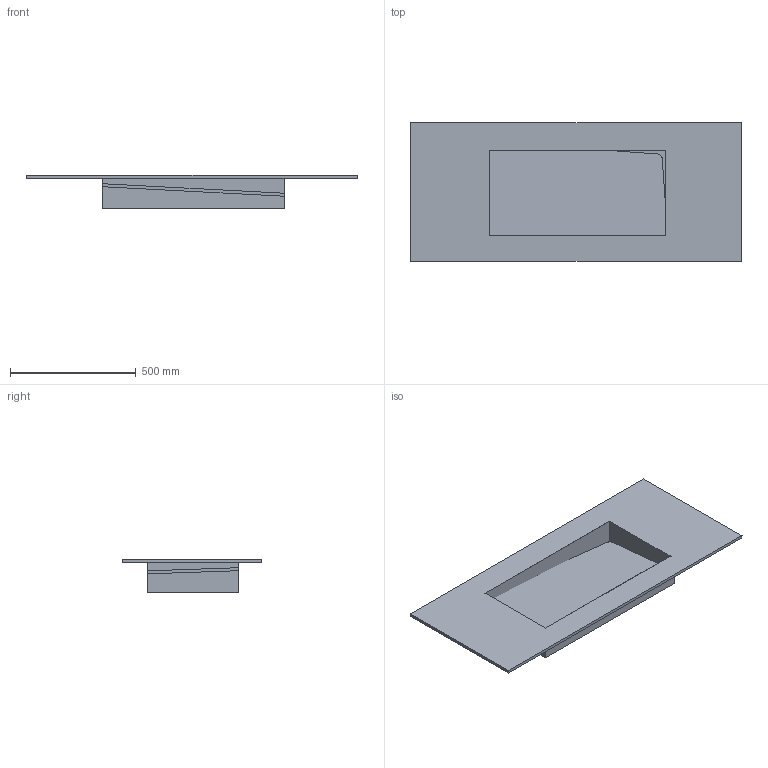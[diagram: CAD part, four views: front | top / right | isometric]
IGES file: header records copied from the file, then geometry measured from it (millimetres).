
Global section: file name: D:\Desktop\GIOVANNI\SCHEDE PRODOTTO\PIANI LAVABO\CAPRI\3D\MOMA DESIGN_PIANI LAVABO_CAPRI MODULE.igs; native system: Rhinoceros ( Jan 17 2018 ); preprocessor: Trout Lake IGES 012 Jan 17 2018; date: 230607.123342; units: millimetre
Bounding box: 1314 x 552 x 133 mm (x, y, z)
Surface area: 2533307.6 mm2 (no closed solid volume)
Topology: 0 solids, 0 shells, 60 faces, 264 edges, 264 vertices
Faces by surface type: bspline 60
